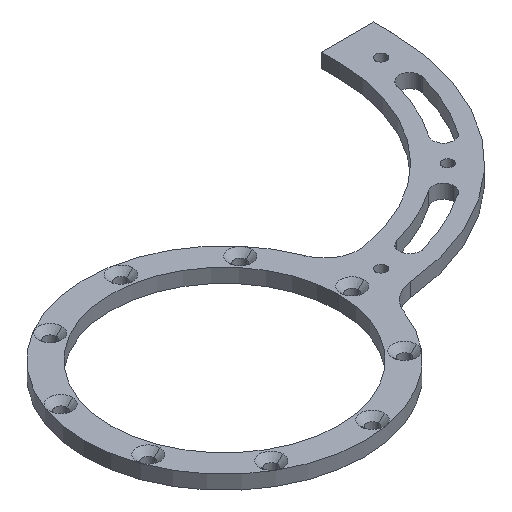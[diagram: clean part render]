
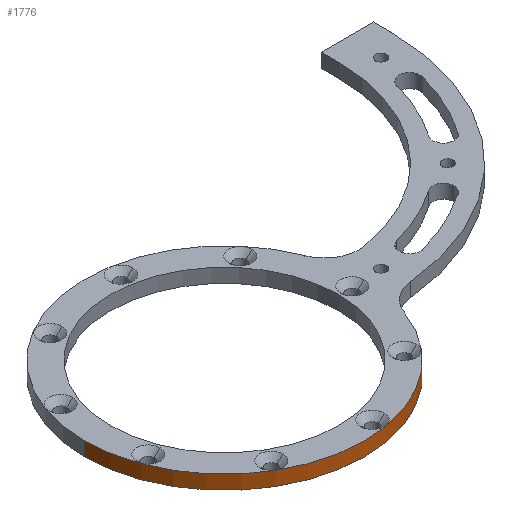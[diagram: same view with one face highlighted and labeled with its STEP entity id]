
A CAD part, isometric view. The second image highlights one B-rep face of the part: STEP entity #1776.
In plain terms, the highlighted cylindrical face has radius 40 mm (diameter 80 mm), a partial arc.
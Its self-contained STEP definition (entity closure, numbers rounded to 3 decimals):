
#58 = VERTEX_POINT ( 'NONE', #803 ) ;
#89 = CARTESIAN_POINT ( 'NONE',  ( -40., 0., 4. ) ) ;
#196 = EDGE_CURVE ( 'NONE', #861, #58, #1499, .T. ) ;
#205 = CIRCLE ( 'NONE', #1505, 40. ) ;
#230 = CARTESIAN_POINT ( 'NONE',  ( 0., 0., 4. ) ) ;
#239 = CARTESIAN_POINT ( 'NONE',  ( 37.566, -13.741, 4. ) ) ;
#286 = CARTESIAN_POINT ( 'NONE',  ( 0., 0., 4. ) ) ;
#326 = EDGE_CURVE ( 'NONE', #1738, #58, #205, .T. ) ;
#392 = CARTESIAN_POINT ( 'NONE',  ( 0., 0., 0. ) ) ;
#415 = FACE_OUTER_BOUND ( 'NONE', #2006, .T. ) ;
#454 = ORIENTED_EDGE ( 'NONE', *, *, #2110, .T. ) ;
#481 = AXIS2_PLACEMENT_3D ( 'NONE', #286, #2084, #575 ) ;
#575 = DIRECTION ( 'NONE',  ( -1., 0., 0. ) ) ;
#592 = VECTOR ( 'NONE', #899, 1000. ) ;
#710 = VECTOR ( 'NONE', #1450, 1000. ) ;
#787 = CARTESIAN_POINT ( 'NONE',  ( -40., 0., 4. ) ) ;
#803 = CARTESIAN_POINT ( 'NONE',  ( 37.566, -13.741, 4. ) ) ;
#861 = VERTEX_POINT ( 'NONE', #1852 ) ;
#899 = DIRECTION ( 'NONE',  ( 0., 0., 1. ) ) ;
#945 = LINE ( 'NONE', #787, #710 ) ;
#972 = AXIS2_PLACEMENT_3D ( 'NONE', #392, #1072, #1081 ) ;
#1072 = DIRECTION ( 'NONE',  ( 0., 0., 1. ) ) ;
#1081 = DIRECTION ( 'NONE',  ( 1., 0., 0. ) ) ;
#1086 = ORIENTED_EDGE ( 'NONE', *, *, #196, .T. ) ;
#1092 = CYLINDRICAL_SURFACE ( 'NONE', #481, 40. ) ;
#1147 = CIRCLE ( 'NONE', #972, 40. ) ;
#1204 = EDGE_CURVE ( 'NONE', #1738, #1910, #945, .T. ) ;
#1219 = DIRECTION ( 'NONE',  ( 0., 0., 1. ) ) ;
#1450 = DIRECTION ( 'NONE',  ( 0., 0., -1. ) ) ;
#1499 = LINE ( 'NONE', #239, #592 ) ;
#1505 = AXIS2_PLACEMENT_3D ( 'NONE', #230, #1219, #2082 ) ;
#1509 = CARTESIAN_POINT ( 'NONE',  ( -40., 0., 0. ) ) ;
#1738 = VERTEX_POINT ( 'NONE', #89 ) ;
#1776 = ADVANCED_FACE ( 'NONE', ( #415 ), #1092, .T. ) ;
#1778 = ORIENTED_EDGE ( 'NONE', *, *, #1204, .T. ) ;
#1845 = ORIENTED_EDGE ( 'NONE', *, *, #326, .F. ) ;
#1852 = CARTESIAN_POINT ( 'NONE',  ( 37.566, -13.741, 0. ) ) ;
#1910 = VERTEX_POINT ( 'NONE', #1509 ) ;
#2006 = EDGE_LOOP ( 'NONE', ( #1845, #1778, #454, #1086 ) ) ;
#2082 = DIRECTION ( 'NONE',  ( 1., 0., 0. ) ) ;
#2084 = DIRECTION ( 'NONE',  ( 0., 0., -1. ) ) ;
#2110 = EDGE_CURVE ( 'NONE', #1910, #861, #1147, .T. ) ;
